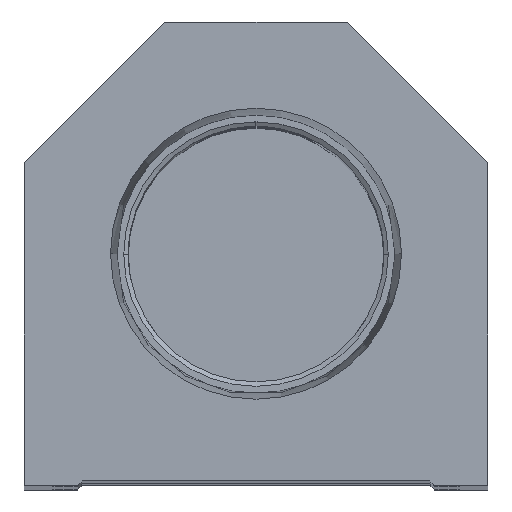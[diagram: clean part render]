
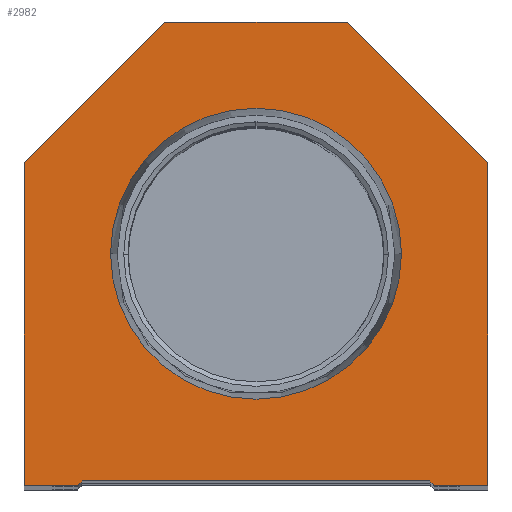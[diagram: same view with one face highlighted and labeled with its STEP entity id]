
A CAD part, top view. The second image highlights one B-rep face of the part: STEP entity #2982.
In plain terms, the highlighted planar face has unit normal (0, 0, 1).
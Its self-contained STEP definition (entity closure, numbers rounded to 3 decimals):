
#87 = DIRECTION ( 'NONE',  ( -0.707, -0.707, 0. ) ) ;
#121 = VECTOR ( 'NONE', #4266, 1000. ) ;
#148 = ORIENTED_EDGE ( 'NONE', *, *, #23961, .T. ) ;
#242 = CARTESIAN_POINT ( 'NONE',  ( 0., 25.4, 0. ) ) ;
#471 = CARTESIAN_POINT ( 'NONE',  ( -9.775, 9.775, 0. ) ) ;
#533 = DIRECTION ( 'NONE',  ( 1., 0., 0. ) ) ;
#1434 = CIRCLE ( 'NONE', #14985, 15.947 ) ;
#1550 = CARTESIAN_POINT ( 'NONE',  ( -10., 50.8, 0. ) ) ;
#1836 = CARTESIAN_POINT ( 'NONE',  ( -19.55, 0., 0. ) ) ;
#2386 = VECTOR ( 'NONE', #533, 1000. ) ;
#2711 = CARTESIAN_POINT ( 'NONE',  ( 19.05, 0.5, 0. ) ) ;
#2727 = VERTEX_POINT ( 'NONE', #8668 ) ;
#2982 = ADVANCED_FACE ( 'NONE', ( #7894, #9705 ), #18729, .T. ) ;
#3762 = DIRECTION ( 'NONE',  ( 1., 0., 0. ) ) ;
#3787 = LINE ( 'NONE', #9364, #16875 ) ;
#4110 = DIRECTION ( 'NONE',  ( 0., 0., 1. ) ) ;
#4170 = CARTESIAN_POINT ( 'NONE',  ( 15.947, 25.4, 0. ) ) ;
#4205 = CARTESIAN_POINT ( 'NONE',  ( 19.05, 0., 0. ) ) ;
#4246 = VERTEX_POINT ( 'NONE', #2711 ) ;
#4266 = DIRECTION ( 'NONE',  ( 0., -1., 0. ) ) ;
#4369 = LINE ( 'NONE', #471, #21971 ) ;
#4522 = EDGE_CURVE ( 'NONE', #6833, #19870, #4369, .T. ) ;
#4910 = VERTEX_POINT ( 'NONE', #1550 ) ;
#4978 = EDGE_CURVE ( 'NONE', #20565, #10019, #20897, .T. ) ;
#5668 = DIRECTION ( 'NONE',  ( -0.707, 0.707, 0. ) ) ;
#5690 = EDGE_CURVE ( 'NONE', #2727, #22557, #8838, .T. ) ;
#6833 = VERTEX_POINT ( 'NONE', #1836 ) ;
#6984 = EDGE_CURVE ( 'NONE', #11989, #6833, #21432, .T. ) ;
#7181 = LINE ( 'NONE', #19881, #23660 ) ;
#7594 = CARTESIAN_POINT ( 'NONE',  ( 25.4, 35.4, 0. ) ) ;
#7624 = LINE ( 'NONE', #20669, #10782 ) ;
#7894 = FACE_BOUND ( 'NONE', #13170, .T. ) ;
#8477 = DIRECTION ( 'NONE',  ( 1., 0., 0. ) ) ;
#8668 = CARTESIAN_POINT ( 'NONE',  ( -15.947, 25.4, 0. ) ) ;
#8838 = CIRCLE ( 'NONE', #12333, 15.947 ) ;
#9364 = CARTESIAN_POINT ( 'NONE',  ( 25.4, 0., 0. ) ) ;
#9705 = FACE_OUTER_BOUND ( 'NONE', #18497, .T. ) ;
#9847 = DIRECTION ( 'NONE',  ( 0.707, 0.707, 0. ) ) ;
#9986 = CARTESIAN_POINT ( 'NONE',  ( 10., 50.8, 0. ) ) ;
#10019 = VERTEX_POINT ( 'NONE', #23291 ) ;
#10058 = ORIENTED_EDGE ( 'NONE', *, *, #4978, .T. ) ;
#10474 = CARTESIAN_POINT ( 'NONE',  ( -19.05, 0., 0. ) ) ;
#10585 = DIRECTION ( 'NONE',  ( 1., 0., 0. ) ) ;
#10782 = VECTOR ( 'NONE', #5668, 1000. ) ;
#11107 = LINE ( 'NONE', #9986, #12621 ) ;
#11141 = VERTEX_POINT ( 'NONE', #7594 ) ;
#11203 = DIRECTION ( 'NONE',  ( 0., 1., 0. ) ) ;
#11558 = DIRECTION ( 'NONE',  ( 1., 0., 0. ) ) ;
#11989 = VERTEX_POINT ( 'NONE', #13466 ) ;
#12204 = VERTEX_POINT ( 'NONE', #22238 ) ;
#12333 = AXIS2_PLACEMENT_3D ( 'NONE', #21405, #13825, #8477 ) ;
#12394 = DIRECTION ( 'NONE',  ( 1., 0., 0. ) ) ;
#12495 = EDGE_CURVE ( 'NONE', #19870, #4246, #15294, .T. ) ;
#12621 = VECTOR ( 'NONE', #17279, 1000. ) ;
#13170 = EDGE_LOOP ( 'NONE', ( #16844, #22255 ) ) ;
#13229 = LINE ( 'NONE', #13352, #22403 ) ;
#13352 = CARTESIAN_POINT ( 'NONE',  ( -25.4, 35.4, 0. ) ) ;
#13466 = CARTESIAN_POINT ( 'NONE',  ( -25.4, 0., 0. ) ) ;
#13534 = ORIENTED_EDGE ( 'NONE', *, *, #22670, .T. ) ;
#13825 = DIRECTION ( 'NONE',  ( 0., 0., 1. ) ) ;
#13876 = ORIENTED_EDGE ( 'NONE', *, *, #4522, .T. ) ;
#14985 = AXIS2_PLACEMENT_3D ( 'NONE', #242, #17288, #11558 ) ;
#15201 = EDGE_CURVE ( 'NONE', #4246, #20565, #7181, .T. ) ;
#15294 = LINE ( 'NONE', #21552, #21569 ) ;
#15506 = ORIENTED_EDGE ( 'NONE', *, *, #15201, .T. ) ;
#15963 = EDGE_CURVE ( 'NONE', #12204, #11989, #22789, .T. ) ;
#16844 = ORIENTED_EDGE ( 'NONE', *, *, #18921, .F. ) ;
#16875 = VECTOR ( 'NONE', #11203, 1000. ) ;
#17279 = DIRECTION ( 'NONE',  ( -1., 0., 0. ) ) ;
#17288 = DIRECTION ( 'NONE',  ( 0., 0., 1. ) ) ;
#17383 = AXIS2_PLACEMENT_3D ( 'NONE', #22526, #4110, #3762 ) ;
#17468 = ORIENTED_EDGE ( 'NONE', *, *, #6984, .T. ) ;
#17629 = ORIENTED_EDGE ( 'NONE', *, *, #15963, .T. ) ;
#17652 = ORIENTED_EDGE ( 'NONE', *, *, #19411, .T. ) ;
#17728 = CARTESIAN_POINT ( 'NONE',  ( 19.55, 0., 0. ) ) ;
#17831 = ORIENTED_EDGE ( 'NONE', *, *, #12495, .T. ) ;
#17846 = VECTOR ( 'NONE', #10585, 1000. ) ;
#18497 = EDGE_LOOP ( 'NONE', ( #17468, #13876, #17831, #15506, #10058, #13534, #17652, #148, #21070, #17629 ) ) ;
#18729 = PLANE ( 'NONE',  #17383 ) ;
#18921 = EDGE_CURVE ( 'NONE', #22557, #2727, #1434, .T. ) ;
#19136 = CARTESIAN_POINT ( 'NONE',  ( -25.4, 0., 0. ) ) ;
#19411 = EDGE_CURVE ( 'NONE', #11141, #23535, #7624, .T. ) ;
#19858 = CARTESIAN_POINT ( 'NONE',  ( 10., 50.8, 0. ) ) ;
#19870 = VERTEX_POINT ( 'NONE', #22681 ) ;
#19881 = CARTESIAN_POINT ( 'NONE',  ( 9.775, 9.775, 0. ) ) ;
#20131 = DIRECTION ( 'NONE',  ( 0.707, -0.707, 0. ) ) ;
#20565 = VERTEX_POINT ( 'NONE', #17728 ) ;
#20669 = CARTESIAN_POINT ( 'NONE',  ( 25.4, 35.4, 0. ) ) ;
#20897 = LINE ( 'NONE', #4205, #2386 ) ;
#21070 = ORIENTED_EDGE ( 'NONE', *, *, #23578, .T. ) ;
#21405 = CARTESIAN_POINT ( 'NONE',  ( 0., 25.4, 0. ) ) ;
#21432 = LINE ( 'NONE', #10474, #17846 ) ;
#21552 = CARTESIAN_POINT ( 'NONE',  ( -19.05, 0.5, 0. ) ) ;
#21569 = VECTOR ( 'NONE', #12394, 1000. ) ;
#21971 = VECTOR ( 'NONE', #9847, 1000. ) ;
#22238 = CARTESIAN_POINT ( 'NONE',  ( -25.4, 35.4, 0. ) ) ;
#22255 = ORIENTED_EDGE ( 'NONE', *, *, #5690, .F. ) ;
#22403 = VECTOR ( 'NONE', #87, 1000. ) ;
#22526 = CARTESIAN_POINT ( 'NONE',  ( 0., 0., 0. ) ) ;
#22557 = VERTEX_POINT ( 'NONE', #4170 ) ;
#22670 = EDGE_CURVE ( 'NONE', #10019, #11141, #3787, .T. ) ;
#22681 = CARTESIAN_POINT ( 'NONE',  ( -19.05, 0.5, 0. ) ) ;
#22789 = LINE ( 'NONE', #19136, #121 ) ;
#23291 = CARTESIAN_POINT ( 'NONE',  ( 25.4, 0., 0. ) ) ;
#23535 = VERTEX_POINT ( 'NONE', #19858 ) ;
#23578 = EDGE_CURVE ( 'NONE', #4910, #12204, #13229, .T. ) ;
#23660 = VECTOR ( 'NONE', #20131, 1000. ) ;
#23961 = EDGE_CURVE ( 'NONE', #23535, #4910, #11107, .T. ) ;
